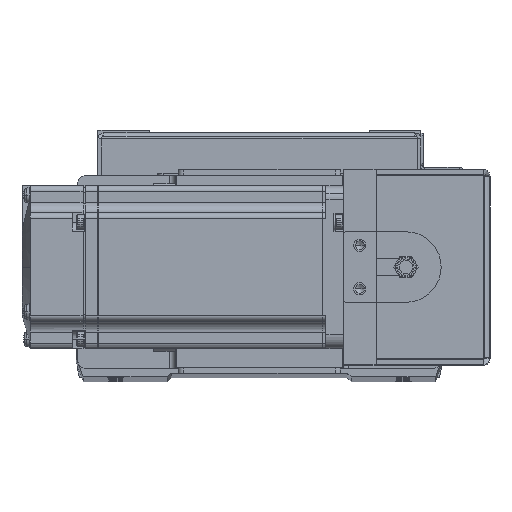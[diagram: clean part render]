
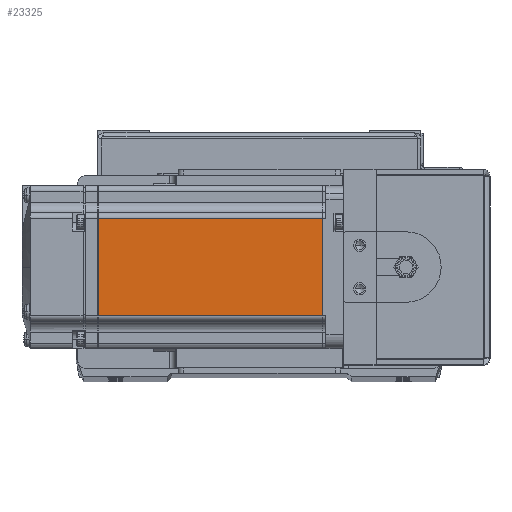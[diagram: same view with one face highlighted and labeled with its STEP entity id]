
A CAD part, top view. The second image highlights one B-rep face of the part: STEP entity #23325.
In plain terms, the highlighted planar face has unit normal (0, 0, 1).
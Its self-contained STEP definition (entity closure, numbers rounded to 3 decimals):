
#1022 = CARTESIAN_POINT ( 'NONE',  ( -90.45, 18., 30. ) ) ;
#1063 = EDGE_LOOP ( 'NONE', ( #28666, #22264, #29534, #19392 ) ) ;
#1881 = CARTESIAN_POINT ( 'NONE',  ( -6.5, -25., 30. ) ) ;
#2259 = PLANE ( 'NONE',  #5982 ) ;
#2270 = CARTESIAN_POINT ( 'NONE',  ( -90.45, -18., 30. ) ) ;
#5982 = AXIS2_PLACEMENT_3D ( 'NONE', #1881, #19483, #27728 ) ;
#6510 = CARTESIAN_POINT ( 'NONE',  ( -7.75, -18., 30. ) ) ;
#6669 = VECTOR ( 'NONE', #37701, 1000. ) ;
#8661 = EDGE_CURVE ( 'NONE', #14293, #26298, #17290, .T. ) ;
#8749 = CARTESIAN_POINT ( 'NONE',  ( -6.5, -18., 30. ) ) ;
#9670 = EDGE_CURVE ( 'NONE', #30792, #14293, #14331, .T. ) ;
#12464 = VERTEX_POINT ( 'NONE', #6510 ) ;
#13404 = VECTOR ( 'NONE', #29874, 1000. ) ;
#14293 = VERTEX_POINT ( 'NONE', #1022 ) ;
#14331 = LINE ( 'NONE', #25989, #6669 ) ;
#14688 = EDGE_CURVE ( 'NONE', #30792, #12464, #15511, .T. ) ;
#14815 = DIRECTION ( 'NONE',  ( 0., -1., 0. ) ) ;
#15511 = LINE ( 'NONE', #27557, #13404 ) ;
#17290 = LINE ( 'NONE', #23414, #25194 ) ;
#19392 = ORIENTED_EDGE ( 'NONE', *, *, #30301, .F. ) ;
#19483 = DIRECTION ( 'NONE',  ( 0., 0., 1. ) ) ;
#20049 = LINE ( 'NONE', #8749, #23407 ) ;
#22264 = ORIENTED_EDGE ( 'NONE', *, *, #9670, .T. ) ;
#23325 = ADVANCED_FACE ( 'NONE', ( #28477 ), #2259, .T. ) ;
#23407 = VECTOR ( 'NONE', #31757, 1000. ) ;
#23414 = CARTESIAN_POINT ( 'NONE',  ( -90.45, 0., 30. ) ) ;
#25194 = VECTOR ( 'NONE', #14815, 1000. ) ;
#25989 = CARTESIAN_POINT ( 'NONE',  ( -6.5, 18., 30. ) ) ;
#26298 = VERTEX_POINT ( 'NONE', #2270 ) ;
#27557 = CARTESIAN_POINT ( 'NONE',  ( -7.75, 0., 30. ) ) ;
#27728 = DIRECTION ( 'NONE',  ( 1., 0., 0. ) ) ;
#28477 = FACE_OUTER_BOUND ( 'NONE', #1063, .T. ) ;
#28666 = ORIENTED_EDGE ( 'NONE', *, *, #14688, .F. ) ;
#29534 = ORIENTED_EDGE ( 'NONE', *, *, #8661, .T. ) ;
#29874 = DIRECTION ( 'NONE',  ( 0., -1., 0. ) ) ;
#30301 = EDGE_CURVE ( 'NONE', #12464, #26298, #20049, .T. ) ;
#30792 = VERTEX_POINT ( 'NONE', #32827 ) ;
#31757 = DIRECTION ( 'NONE',  ( -1., 0., 0. ) ) ;
#32827 = CARTESIAN_POINT ( 'NONE',  ( -7.75, 18., 30. ) ) ;
#37701 = DIRECTION ( 'NONE',  ( -1., 0., 0. ) ) ;
